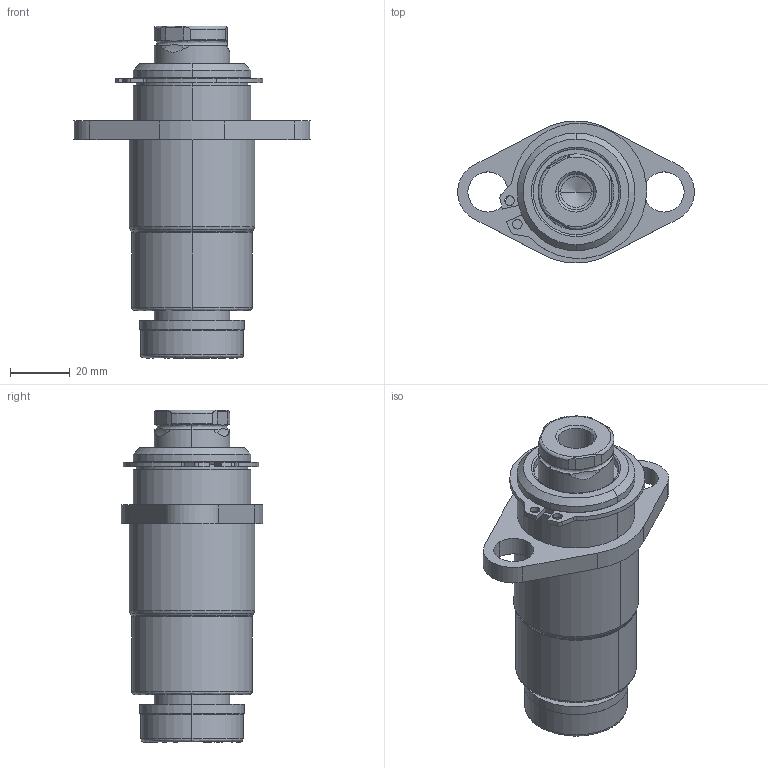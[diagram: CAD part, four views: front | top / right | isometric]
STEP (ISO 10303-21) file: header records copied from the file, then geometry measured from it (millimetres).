
FILE_DESCRIPTION (( 'STEP AP214' ), '1' );
FILE_NAME ('GK105-N3-1-TB-M-XXX.STEP', '2020-09-21T13:32:02', ( '' ), ( '' ), 'SwSTEP 2.0', 'SolidWorks 2017', '' );
FILE_SCHEMA (( 'AUTOMOTIVE_DESIGN' ));
Length unit declared in the file: inch
Products named in the file (7): GK105-DampeningWasher; GK1.00-N3-1-TB-Base; GK105-M-XXX-GuidePin; RetainingRing; GK105-N3-1-TB-M-XXX
Assembly tree (6 placements, depth 3):
  GK105-N3-1-TB-M-XXX
    GK1.00-N3-1-TB-Base
      GK1.00-N3-1-TB-Base
      RetainingRing
    GK105-M-XXX-GuidePin
      GK105-M-XXX-GuidePin
      GK105-DampeningWasher
Bounding box: 79.18 x 47.5 x 111.12 mm (x, y, z)
Volume: 128912.4 mm3; surface area: 36585.6 mm2
Topology: 4 solids, 4 shells, 132 faces, 326 edges, 207 vertices
Faces by surface type: cylinder 61, plane 36, bspline 23, cone 12
Entity records: 5164 total; most frequent: CARTESIAN_POINT 1698, ORIENTED_EDGE 648, DIRECTION 631, EDGE_CURVE 324, AXIS2_PLACEMENT_3D 258, VERTEX_POINT 207, EDGE_LOOP 151, CIRCLE 138
